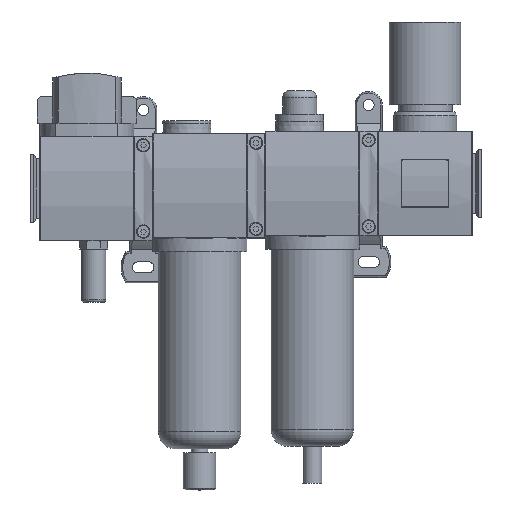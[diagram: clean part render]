
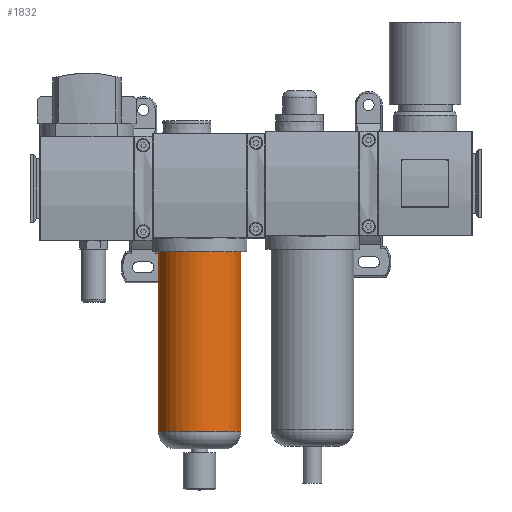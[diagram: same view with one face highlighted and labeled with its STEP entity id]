
A CAD part, top view. The second image highlights one B-rep face of the part: STEP entity #1832.
In plain terms, the highlighted cylindrical face has radius 24.25 mm (diameter 48.5 mm), a full revolution.
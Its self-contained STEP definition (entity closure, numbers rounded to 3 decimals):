
#1832 = ADVANCED_FACE( '', ( #4014, #4015 ), #4016, .T. );
#4014 = FACE_OUTER_BOUND( '', #6831, .T. );
#4015 = FACE_OUTER_BOUND( '', #6832, .T. );
#4016 = CYLINDRICAL_SURFACE( '', #6833, 24.25 );
#6831 = EDGE_LOOP( '', ( #10958 ) );
#6832 = EDGE_LOOP( '', ( #10959 ) );
#6833 = AXIS2_PLACEMENT_3D( '', #10960, #10961, #10962 );
#10958 = ORIENTED_EDGE( '', *, *, #17359, .F. );
#10959 = ORIENTED_EDGE( '', *, *, #16317, .T. );
#10960 = CARTESIAN_POINT( '', ( 0., -115.5, 0. ) );
#10961 = DIRECTION( '', ( 0., 1., 0. ) );
#10962 = DIRECTION( '', ( 0., 0., -1. ) );
#16317 = EDGE_CURVE( '', #19266, #19266, #19267, .T. );
#17359 = EDGE_CURVE( '', #21003, #21003, #21004, .T. );
#19266 = VERTEX_POINT( '', #23579 );
#19267 = CIRCLE( '', #23580, 24.25 );
#21003 = VERTEX_POINT( '', #26317 );
#21004 = CIRCLE( '', #26318, 24.25 );
#23579 = CARTESIAN_POINT( '', ( 0., 0., -24.25 ) );
#23580 = AXIS2_PLACEMENT_3D( '', #29584, #29585, #29586 );
#26317 = CARTESIAN_POINT( '', ( 0., -105.5, -24.25 ) );
#26318 = AXIS2_PLACEMENT_3D( '', #30617, #30618, #30619 );
#29584 = CARTESIAN_POINT( '', ( 0., 0., 0. ) );
#29585 = DIRECTION( '', ( 0., -1., 0. ) );
#29586 = DIRECTION( '', ( 0., 0., -1. ) );
#30617 = CARTESIAN_POINT( '', ( 0., -105.5, 0. ) );
#30618 = DIRECTION( '', ( 0., -1., 0. ) );
#30619 = DIRECTION( '', ( 0., 0., -1. ) );
